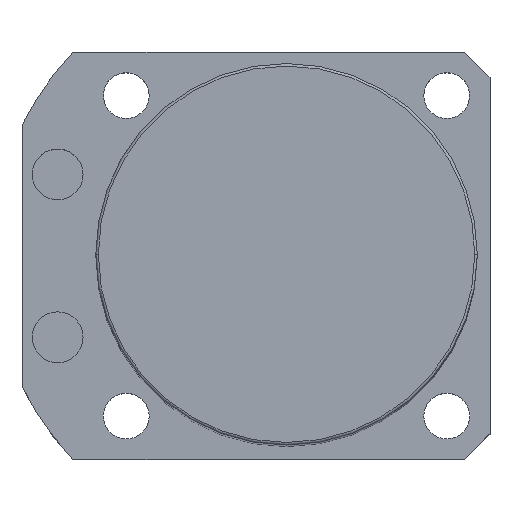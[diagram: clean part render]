
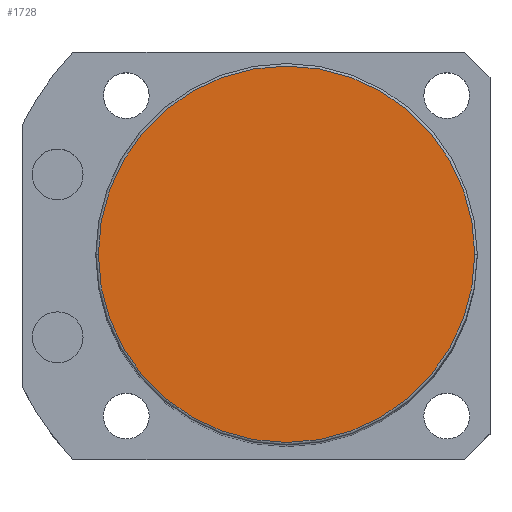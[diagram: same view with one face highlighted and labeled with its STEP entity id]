
A CAD part, top view. The second image highlights one B-rep face of the part: STEP entity #1728.
In plain terms, the highlighted planar face has unit normal (0, 0, 1).
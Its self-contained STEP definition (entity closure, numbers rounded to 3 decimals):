
#56 = DIRECTION ( 'NONE',  ( 1., 0., 0. ) ) ;
#65 = AXIS2_PLACEMENT_3D ( 'NONE', #1994, #2861, #2399 ) ;
#68 = CARTESIAN_POINT ( 'NONE',  ( 37., 0., 195.5 ) ) ;
#118 = CARTESIAN_POINT ( 'NONE',  ( -37., 0., 195.5 ) ) ;
#415 = VERTEX_POINT ( 'NONE', #118 ) ;
#420 = CARTESIAN_POINT ( 'NONE',  ( 0., 0., 195.5 ) ) ;
#523 = ORIENTED_EDGE ( 'NONE', *, *, #1734, .T. ) ;
#657 = DIRECTION ( 'NONE',  ( 1., 0., 0. ) ) ;
#799 = EDGE_CURVE ( 'NONE', #2586, #415, #800, .T. ) ;
#800 = CIRCLE ( 'NONE', #2107, 37. ) ;
#871 = DIRECTION ( 'NONE',  ( 0., 0., 1. ) ) ;
#1011 = FACE_OUTER_BOUND ( 'NONE', #2395, .T. ) ;
#1312 = PLANE ( 'NONE',  #65 ) ;
#1436 = CIRCLE ( 'NONE', #2815, 37. ) ;
#1460 = ORIENTED_EDGE ( 'NONE', *, *, #799, .T. ) ;
#1728 = ADVANCED_FACE ( 'NONE', ( #1011 ), #1312, .T. ) ;
#1734 = EDGE_CURVE ( 'NONE', #415, #2586, #1436, .T. ) ;
#1994 = CARTESIAN_POINT ( 'NONE',  ( 0., 0., 195.5 ) ) ;
#2107 = AXIS2_PLACEMENT_3D ( 'NONE', #2707, #2699, #56 ) ;
#2395 = EDGE_LOOP ( 'NONE', ( #1460, #523 ) ) ;
#2399 = DIRECTION ( 'NONE',  ( 1., 0., 0. ) ) ;
#2586 = VERTEX_POINT ( 'NONE', #68 ) ;
#2699 = DIRECTION ( 'NONE',  ( 0., 0., 1. ) ) ;
#2707 = CARTESIAN_POINT ( 'NONE',  ( 0., 0., 195.5 ) ) ;
#2815 = AXIS2_PLACEMENT_3D ( 'NONE', #420, #871, #657 ) ;
#2861 = DIRECTION ( 'NONE',  ( 0., 0., 1. ) ) ;
